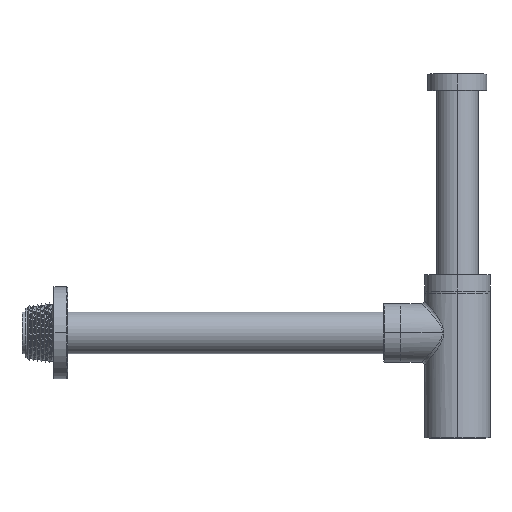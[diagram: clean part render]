
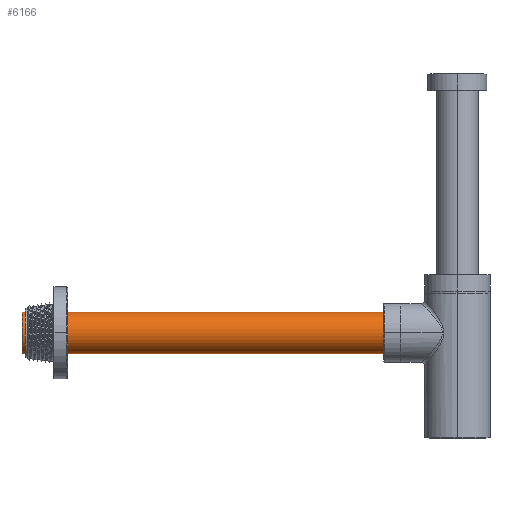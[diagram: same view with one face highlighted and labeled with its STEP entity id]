
A CAD part, top view. The second image highlights one B-rep face of the part: STEP entity #6166.
In plain terms, the highlighted cylindrical face has radius 16 mm (diameter 32 mm), a partial arc.
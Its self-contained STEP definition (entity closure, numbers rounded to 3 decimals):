
#6070=DIRECTION('',(1.,0.,0.));
#6071=VECTOR('',#6070,300.);
#6072=CARTESIAN_POINT('',(0.,-16.,0.));
#6073=LINE('',#6072,#6071);
#6074=CARTESIAN_POINT('',(0.,0.,0.));
#6075=DIRECTION('',(-1.,0.,0.));
#6076=DIRECTION('',(0.,-1.,0.));
#6077=AXIS2_PLACEMENT_3D('',#6074,#6075,#6076);
#6079=DIRECTION('',(1.,0.,0.));
#6080=VECTOR('',#6079,300.);
#6081=CARTESIAN_POINT('',(0.,16.,0.));
#6082=LINE('',#6081,#6080);
#6116=CARTESIAN_POINT('',(300.,0.,0.));
#6117=DIRECTION('',(-1.,0.,0.));
#6118=DIRECTION('',(0.,-1.,0.));
#6119=AXIS2_PLACEMENT_3D('',#6116,#6117,#6118);
#6121=CARTESIAN_POINT('',(0.,-16.,0.));
#6122=CARTESIAN_POINT('',(300.,-16.,0.));
#6123=VERTEX_POINT('',#6121);
#6124=VERTEX_POINT('',#6122);
#6129=CARTESIAN_POINT('',(0.,16.,0.));
#6130=CARTESIAN_POINT('',(300.,16.,0.));
#6131=VERTEX_POINT('',#6129);
#6132=VERTEX_POINT('',#6130);
#6153=CARTESIAN_POINT('',(-15.,0.,0.));
#6154=DIRECTION('',(1.,0.,0.));
#6155=DIRECTION('',(0.,-1.,0.));
#6156=AXIS2_PLACEMENT_3D('',#6153,#6154,#6155);
#6157=CYLINDRICAL_SURFACE('',#6156,16.);
#6158=ORIENTED_EDGE('',*,*,#6142,.F.);
#6160=ORIENTED_EDGE('',*,*,#6159,.T.);
#6161=ORIENTED_EDGE('',*,*,#6146,.T.);
#6163=ORIENTED_EDGE('',*,*,#6162,.F.);
#6164=EDGE_LOOP('',(#6158,#6160,#6161,#6163));
#6165=FACE_OUTER_BOUND('',#6164,.F.);
#6166=ADVANCED_FACE('',(#6165),#6157,.T.);
#6078=CIRCLE('',#6077,16.);
#6120=CIRCLE('',#6119,16.);
#6142=EDGE_CURVE('',#6123,#6124,#6073,.T.);
#6146=EDGE_CURVE('',#6131,#6132,#6082,.T.);
#6159=EDGE_CURVE('',#6123,#6131,#6078,.T.);
#6162=EDGE_CURVE('',#6124,#6132,#6120,.T.);
